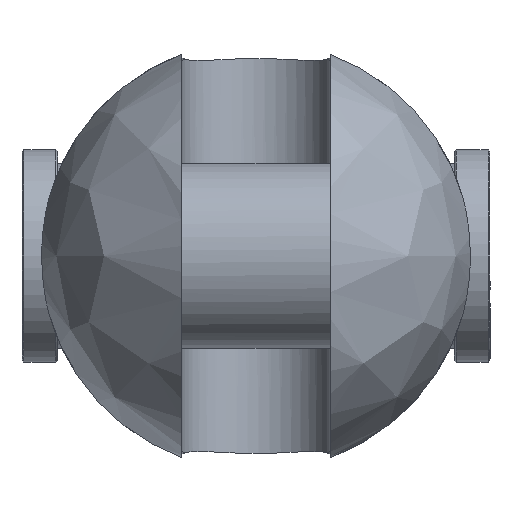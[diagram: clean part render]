
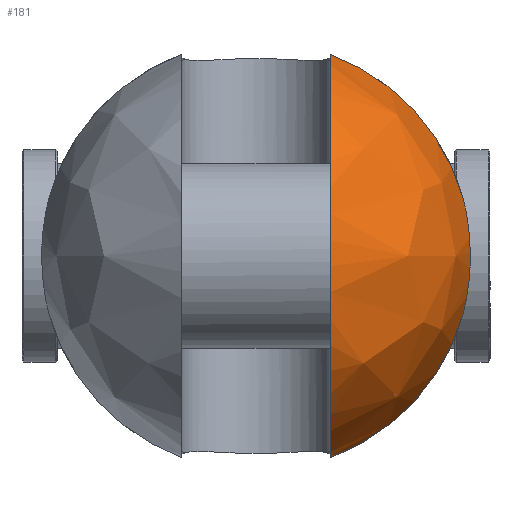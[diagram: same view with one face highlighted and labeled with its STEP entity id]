
A CAD part, left-side view. The second image highlights one B-rep face of the part: STEP entity #181.
In plain terms, the highlighted free-form (B-spline) face has degree [2, 2] with [9, 5] control points.
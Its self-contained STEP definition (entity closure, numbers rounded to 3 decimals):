
#181=ADVANCED_FACE('',(#324),#2456,.T.);
#324=FACE_OUTER_BOUND('',#487,.T.);
#487=EDGE_LOOP('',(#1214,#1215,#1216,#1217));
#1214=ORIENTED_EDGE('',*,*,#1602,.T.);
#1215=ORIENTED_EDGE('',*,*,#1630,.F.);
#1216=ORIENTED_EDGE('',*,*,#1642,.T.);
#1217=ORIENTED_EDGE('',*,*,#1622,.F.);
#1602=EDGE_CURVE('',#2286,#2285,#2017,.T.);
#1622=EDGE_CURVE('',#2286,#2298,#2027,.T.);
#1630=EDGE_CURVE('',#2305,#2285,#2028,.T.);
#1642=EDGE_CURVE('',#2305,#2298,#1818,.T.);
#1818=B_SPLINE_CURVE_WITH_KNOTS('',3,(#6268,#6269,#6270,#6271,#6272,#6273,
#6274,#6275,#6276,#6277,#6278,#6279,#6280,#6281),.UNSPECIFIED.,.F.,.F.,
(4,2,2,2,2,2,4),(0.,4.501,10.8,17.099,23.397,
29.696,34.197),.UNSPECIFIED.);
#2017=(
BOUNDED_CURVE()
B_SPLINE_CURVE(2,(#6012,#6013,#6014,#6015,#6016),.UNSPECIFIED.,.F.,.F.)
B_SPLINE_CURVE_WITH_KNOTS((3,2,3),(-178.249,-89.125,
0.),.UNSPECIFIED.)
CURVE()
GEOMETRIC_REPRESENTATION_ITEM()
RATIONAL_B_SPLINE_CURVE((1.,0.707,1.,0.707,1.))
REPRESENTATION_ITEM('')
);
#2027=(
BOUNDED_CURVE()
B_SPLINE_CURVE(2,(#6138,#6139,#6140),.UNSPECIFIED.,.F.,.F.)
B_SPLINE_CURVE_WITH_KNOTS((3,3),(0.,57.305),.UNSPECIFIED.)
CURVE()
GEOMETRIC_REPRESENTATION_ITEM()
RATIONAL_B_SPLINE_CURVE((1.,0.89,1.))
REPRESENTATION_ITEM('')
);
#2028=(
BOUNDED_CURVE()
B_SPLINE_CURVE(2,(#6195,#6196,#6197),.UNSPECIFIED.,.F.,.F.)
B_SPLINE_CURVE_WITH_KNOTS((3,3),(0.,57.305),.UNSPECIFIED.)
CURVE()
GEOMETRIC_REPRESENTATION_ITEM()
RATIONAL_B_SPLINE_CURVE((1.,0.89,1.))
REPRESENTATION_ITEM('')
);
#2285=VERTEX_POINT('',#5896);
#2286=VERTEX_POINT('',#5897);
#2298=VERTEX_POINT('',#5909);
#2305=VERTEX_POINT('',#5916);
#2456=(
BOUNDED_SURFACE()
B_SPLINE_SURFACE(2,2,((#5610,#5611,#5612,#5613,#5614),(#5615,#5616,#5617,
#5618,#5619),(#5620,#5621,#5622,#5623,#5624),(#5625,#5626,#5627,#5628,#5629),
(#5630,#5631,#5632,#5633,#5634),(#5635,#5636,#5637,#5638,#5639),(#5640,
#5641,#5642,#5643,#5644),(#5645,#5646,#5647,#5648,#5649),(#5650,#5651,#5652,
#5653,#5654)),.UNSPECIFIED.,.T.,.F.,.F.)
B_SPLINE_SURFACE_WITH_KNOTS((3,2,2,2,3),(3,2,3),(0.,95.033,190.066,
285.1,380.133),(0.,95.033,190.066),
 .UNSPECIFIED.)
GEOMETRIC_REPRESENTATION_ITEM()
RATIONAL_B_SPLINE_SURFACE(((1.,0.707,1.,0.707,1.),
(0.707,0.5,0.707,0.5,0.707),(1.,0.707,
1.,0.707,1.),(0.707,0.5,0.707,0.5,0.707),
(1.,0.707,1.,0.707,1.),(0.707,0.5,0.707,
0.5,0.707),(1.,0.707,1.,0.707,1.),(0.707,
0.5,0.707,0.5,0.707),(1.,0.707,1.,0.707,
1.)))
REPRESENTATION_ITEM('')
SURFACE()
);
#5610=CARTESIAN_POINT('',(-87.,0.,0.));
#5611=CARTESIAN_POINT('',(-87.,60.5,0.));
#5612=CARTESIAN_POINT('',(-26.5,60.5,0.));
#5613=CARTESIAN_POINT('',(34.,60.5,0.));
#5614=CARTESIAN_POINT('',(34.,0.,0.));
#5615=CARTESIAN_POINT('',(-87.,0.,0.));
#5616=CARTESIAN_POINT('',(-87.,60.5,60.5));
#5617=CARTESIAN_POINT('',(-26.5,60.5,60.5));
#5618=CARTESIAN_POINT('',(34.,60.5,60.5));
#5619=CARTESIAN_POINT('',(34.,0.,0.));
#5620=CARTESIAN_POINT('',(-87.,0.,0.));
#5621=CARTESIAN_POINT('',(-87.,0.,60.5));
#5622=CARTESIAN_POINT('',(-26.5,0.,60.5));
#5623=CARTESIAN_POINT('',(34.,0.,60.5));
#5624=CARTESIAN_POINT('',(34.,0.,0.));
#5625=CARTESIAN_POINT('',(-87.,0.,0.));
#5626=CARTESIAN_POINT('',(-87.,-60.5,60.5));
#5627=CARTESIAN_POINT('',(-26.5,-60.5,60.5));
#5628=CARTESIAN_POINT('',(34.,-60.5,60.5));
#5629=CARTESIAN_POINT('',(34.,0.,0.));
#5630=CARTESIAN_POINT('',(-87.,0.,0.));
#5631=CARTESIAN_POINT('',(-87.,-60.5,0.));
#5632=CARTESIAN_POINT('',(-26.5,-60.5,0.));
#5633=CARTESIAN_POINT('',(34.,-60.5,0.));
#5634=CARTESIAN_POINT('',(34.,0.,0.));
#5635=CARTESIAN_POINT('',(-87.,0.,0.));
#5636=CARTESIAN_POINT('',(-87.,-60.5,-60.5));
#5637=CARTESIAN_POINT('',(-26.5,-60.5,-60.5));
#5638=CARTESIAN_POINT('',(34.,-60.5,-60.5));
#5639=CARTESIAN_POINT('',(34.,0.,0.));
#5640=CARTESIAN_POINT('',(-87.,0.,0.));
#5641=CARTESIAN_POINT('',(-87.,0.,-60.5));
#5642=CARTESIAN_POINT('',(-26.5,0.,-60.5));
#5643=CARTESIAN_POINT('',(34.,0.,-60.5));
#5644=CARTESIAN_POINT('',(34.,0.,0.));
#5645=CARTESIAN_POINT('',(-87.,0.,0.));
#5646=CARTESIAN_POINT('',(-87.,60.5,-60.5));
#5647=CARTESIAN_POINT('',(-26.5,60.5,-60.5));
#5648=CARTESIAN_POINT('',(34.,60.5,-60.5));
#5649=CARTESIAN_POINT('',(34.,0.,0.));
#5650=CARTESIAN_POINT('',(-87.,0.,0.));
#5651=CARTESIAN_POINT('',(-87.,60.5,0.));
#5652=CARTESIAN_POINT('',(-26.5,60.5,0.));
#5653=CARTESIAN_POINT('',(34.,60.5,0.));
#5654=CARTESIAN_POINT('',(34.,0.,0.));
#5896=CARTESIAN_POINT('',(-26.5,-21.,-56.738));
#5897=CARTESIAN_POINT('',(-26.5,-21.,56.738));
#5909=CARTESIAN_POINT('',(-26.5,-58.322,16.086));
#5916=CARTESIAN_POINT('',(-26.5,-58.322,-16.086));
#6012=CARTESIAN_POINT('',(-26.5,-21.,56.738));
#6013=CARTESIAN_POINT('',(-83.238,-21.,56.738));
#6014=CARTESIAN_POINT('',(-83.238,-21.,0.));
#6015=CARTESIAN_POINT('',(-83.238,-21.,-56.738));
#6016=CARTESIAN_POINT('',(-26.5,-21.,-56.738));
#6138=CARTESIAN_POINT('',(-26.5,-21.,56.738));
#6139=CARTESIAN_POINT('',(-26.5,-50.078,45.976));
#6140=CARTESIAN_POINT('',(-26.5,-58.322,16.086));
#6195=CARTESIAN_POINT('',(-26.5,-58.322,-16.086));
#6196=CARTESIAN_POINT('',(-26.5,-50.078,-45.976));
#6197=CARTESIAN_POINT('',(-26.5,-21.,-56.738));
#6268=CARTESIAN_POINT('',(-26.5,-58.322,-16.086));
#6269=CARTESIAN_POINT('',(-27.264,-58.669,-14.827));
#6270=CARTESIAN_POINT('',(-27.947,-58.977,-13.499));
#6271=CARTESIAN_POINT('',(-29.349,-59.604,-10.198));
#6272=CARTESIAN_POINT('',(-29.976,-59.881,-8.175));
#6273=CARTESIAN_POINT('',(-30.801,-60.245,-4.081));
#6274=CARTESIAN_POINT('',(-31.,-60.332,-2.011));
#6275=CARTESIAN_POINT('',(-31.,-60.332,2.011));
#6276=CARTESIAN_POINT('',(-30.801,-60.245,4.081));
#6277=CARTESIAN_POINT('',(-29.976,-59.881,8.175));
#6278=CARTESIAN_POINT('',(-29.349,-59.604,10.198));
#6279=CARTESIAN_POINT('',(-27.947,-58.977,13.499));
#6280=CARTESIAN_POINT('',(-27.264,-58.669,14.827));
#6281=CARTESIAN_POINT('',(-26.5,-58.322,16.086));
